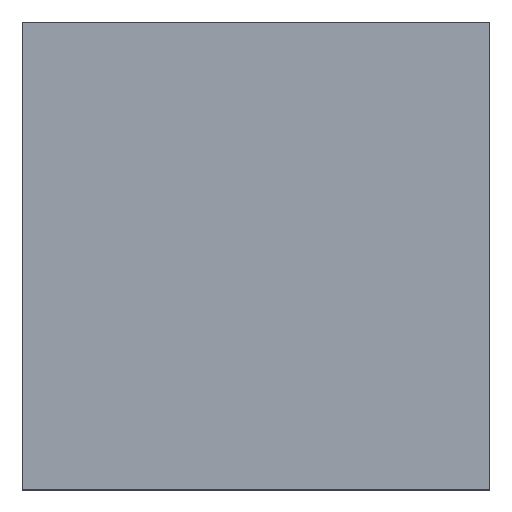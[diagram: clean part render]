
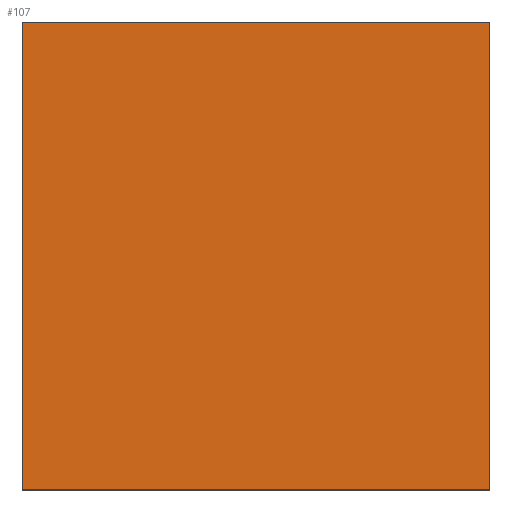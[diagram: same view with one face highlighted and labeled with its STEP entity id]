
A CAD part, top view. The second image highlights one B-rep face of the part: STEP entity #107.
In plain terms, the highlighted planar face has unit normal (0, 0, 1).
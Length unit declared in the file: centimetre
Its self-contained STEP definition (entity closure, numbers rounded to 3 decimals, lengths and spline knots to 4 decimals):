
#14 = EDGE_CURVE ( 'NONE', #353, #403, #75, .T. ) ;
#30 = CARTESIAN_POINT ( 'NONE',  ( 1000., 1000., 1000. ) ) ;
#40 = VERTEX_POINT ( 'NONE', #255 ) ;
#69 = LINE ( 'NONE', #267, #385 ) ;
#72 = ORIENTED_EDGE ( 'NONE', *, *, #326, .T. ) ;
#75 = LINE ( 'NONE', #387, #355 ) ;
#88 = EDGE_LOOP ( 'NONE', ( #323, #72, #191, #140 ) ) ;
#105 = DIRECTION ( 'NONE',  ( 0., 1., 0. ) ) ;
#107 = ADVANCED_FACE ( 'NONE', ( #118 ), #253, .T. ) ;
#118 = FACE_OUTER_BOUND ( 'NONE', #88, .T. ) ;
#122 = CARTESIAN_POINT ( 'NONE',  ( 1000., 0., 1000. ) ) ;
#127 = AXIS2_PLACEMENT_3D ( 'NONE', #356, #277, #417 ) ;
#140 = ORIENTED_EDGE ( 'NONE', *, *, #388, .T. ) ;
#186 = DIRECTION ( 'NONE',  ( 0., -1., 0. ) ) ;
#191 = ORIENTED_EDGE ( 'NONE', *, *, #425, .T. ) ;
#202 = CARTESIAN_POINT ( 'NONE',  ( 0., 0., 1000. ) ) ;
#228 = VERTEX_POINT ( 'NONE', #122 ) ;
#253 = PLANE ( 'NONE',  #127 ) ;
#255 = CARTESIAN_POINT ( 'NONE',  ( 1000., 1000., 1000. ) ) ;
#267 = CARTESIAN_POINT ( 'NONE',  ( 0., 1000., 1000. ) ) ;
#271 = VECTOR ( 'NONE', #105, 100. ) ;
#272 = LINE ( 'NONE', #30, #271 ) ;
#277 = DIRECTION ( 'NONE',  ( 0., 0., 1. ) ) ;
#303 = DIRECTION ( 'NONE',  ( 1., 0., 0. ) ) ;
#322 = VECTOR ( 'NONE', #303, 100. ) ;
#323 = ORIENTED_EDGE ( 'NONE', *, *, #14, .T. ) ;
#326 = EDGE_CURVE ( 'NONE', #403, #228, #442, .T. ) ;
#336 = DIRECTION ( 'NONE',  ( -1., 0., 0. ) ) ;
#353 = VERTEX_POINT ( 'NONE', #373 ) ;
#355 = VECTOR ( 'NONE', #186, 100. ) ;
#356 = CARTESIAN_POINT ( 'NONE',  ( 0., 0., 1000. ) ) ;
#373 = CARTESIAN_POINT ( 'NONE',  ( 0., 1000., 1000. ) ) ;
#385 = VECTOR ( 'NONE', #336, 100. ) ;
#387 = CARTESIAN_POINT ( 'NONE',  ( 0., 1000., 1000. ) ) ;
#388 = EDGE_CURVE ( 'NONE', #40, #353, #69, .T. ) ;
#402 = CARTESIAN_POINT ( 'NONE',  ( 0., 0., 1000. ) ) ;
#403 = VERTEX_POINT ( 'NONE', #402 ) ;
#417 = DIRECTION ( 'NONE',  ( 1., 0., 0. ) ) ;
#425 = EDGE_CURVE ( 'NONE', #228, #40, #272, .T. ) ;
#442 = LINE ( 'NONE', #202, #322 ) ;
